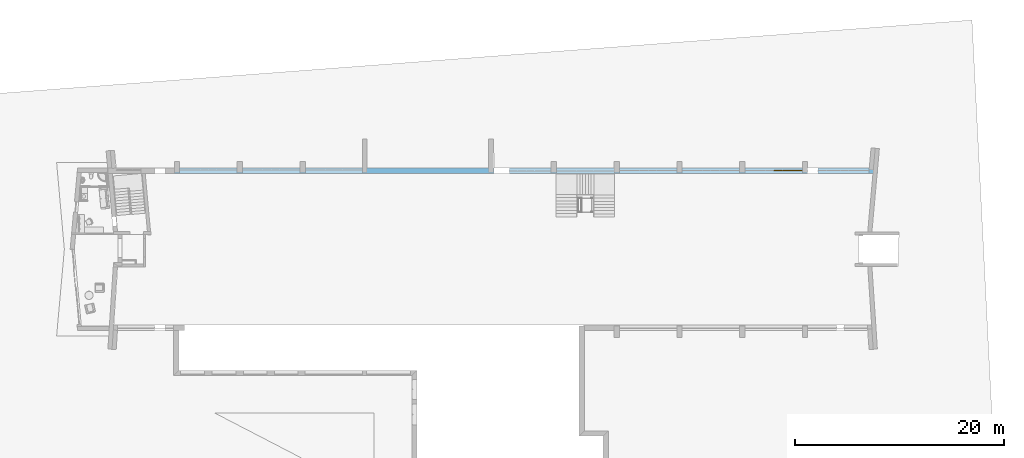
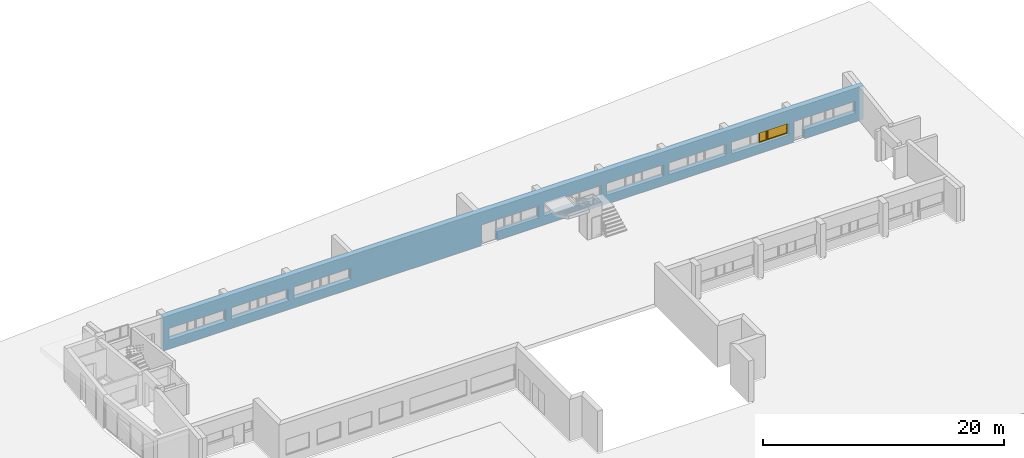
# One storey, part 23 of 36: 1 window, 20 openings, plus 1 element that does not belong to this part.
"""IFC2X3 building model written with IfcOpenShell, lengths in millimetres."""

from ifc_helpers import new_model, entity, si_unit, converted_unit, money_unit, direction, frame, origin_with_axes, place, context, subcontext, project, spatial, polyline, outline, extrude, open_shell, faceted_brep, surface_model, material, material_list, layer, layer_set, layer_usage, type_object, element, fill, save


model = new_model("IFC2X3")

# Units and contexts
model_context = context("Model", 3, precision=1e-05, world=origin_with_axes(), true_north=direction((0.0, 1.0)))
body_context = subcontext(model_context, "Body", "Model", "MODEL_VIEW")
ifc_project = project(units=[si_unit("LENGTHUNIT", "METRE", prefix="MILLI"), si_unit("AREAUNIT", "SQUARE_METRE"), si_unit("VOLUMEUNIT", "CUBIC_METRE"), converted_unit("PLANEANGLEUNIT", "DEGREE", entity("IfcPlaneAngleMeasure", 0.0174532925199), si_unit("PLANEANGLEUNIT", "RADIAN"), dimensions=[0, 0, 0, 0, 0, 0, 0]), si_unit("SOLIDANGLEUNIT", "STERADIAN"), money_unit("USD"), converted_unit("TIMEUNIT", "Year", entity("IfcTimeMeasure", 31556926.0), si_unit("TIMEUNIT", "SECOND"), dimensions=[0, 0, 0, 0, 0, 0, 0]), si_unit("MASSUNIT", "GRAM"), si_unit("THERMODYNAMICTEMPERATUREUNIT", "DEGREE_CELSIUS"), si_unit("LUMINOUSINTENSITYUNIT", "LUMEN")], contexts=[model_context])

# Site, building, storey
site_placement = place(None, origin_with_axes())
site = spatial("IfcSite", under=ifc_project, at=site_placement, Name="Site", CompositionType="ELEMENT")
building_placement = place(site_placement, origin_with_axes())
building = spatial("IfcBuilding", under=site, at=building_placement, Name="Building", CompositionType="ELEMENT")
storey_placement = place(building_placement, frame((0.0, 0.0, -3400.0), z_axis=(0.0, 0.0, 1.0), x_axis=(1.0, 0.0, 0.0)))
storey = spatial("IfcBuildingStorey", under=building, at=storey_placement, Name="1KORRUS", CompositionType="ELEMENT", Elevation=-3400.0)

# Wall, openings, window
ifc_material_1 = material(Name="Olemasolevad seinad tellis, uus viimistlus")
ifc_layer = layer(ifc_material_1, 500.0, ventilated="UNKNOWN")
ifc_layer_set = layer_set([ifc_layer], Name="Olemasolevad seinad tellis, uus viimistlus 500")
ifc_layer_usage = layer_usage(ifc_layer_set, "AXIS2", "POSITIVE", -100.0)
wall_type = type_object("IfcWallType", Name="Olemasolevad seinad tellis, uus viimistlus 500", PredefinedType="NOTDEFINED")
wall_placement = place(storey_placement, frame((-48393.8274049, -5039.6041088, 0.0), z_axis=(0.0, 0.0, 1.0), x_axis=(1.0, 0.0, 0.0)))
wall = element("IfcWallStandardCase", 1, at=wall_placement, inside=storey, type_object=wall_type, material=ifc_layer_usage, Name="VS1", ObjectType="VS1", context=body_context, shape_type="SweptSolid", body=[
    extrude(outline(polyline([(0.0, -100.0), (67149.8194303, -100.0), (67149.8194303, 400.0), (0.0, 400.0), (0.0, -100.0)])), origin_with_axes(), (0.0, 0.0, 1.0), 3400.0),
])
opening_1_placement = place(wall_placement, frame((1878.53070154, 0.0, 900.0), z_axis=(0.0, 0.0, 1.0), x_axis=(1.0, 0.0, 0.0)))
element("IfcOpeningElement", 2, at=opening_1_placement, cuts=wall, Name="Olemasolevad aknad jäävad", context=body_context, shape_type="SweptSolid", body=[
    extrude(outline(polyline([(-1375.0, 1200.0), (-1375.0, 0.0), (1375.0, 0.0), (1375.0, 1200.0), (-1375.0, 1200.0)])), frame((0.0, 250.0, 0.0), z_axis=(0.0, -1.0, 0.0), x_axis=(1.0, 0.0, 0.0)), (0.0, 0.0, 1.0), 850.0),
    extrude(outline(polyline([(-1375.0, 0.0), (-1375.0, -1200.0), (1375.0, -1200.0), (1375.0, 0.0), (-1375.0, 0.0)])), frame((0.0, 250.0, 0.0), z_axis=(0.0, 1.0, 0.0), x_axis=(1.0, 0.0, 0.0)), (0.0, 0.0, 1.0), 650.0),
])
opening_2_placement = place(wall_placement, frame((7878.53070154, 0.0, 900.0), z_axis=(0.0, 0.0, 1.0), x_axis=(1.0, 0.0, 0.0)))
element("IfcOpeningElement", 3, at=opening_2_placement, cuts=wall, Name="Olemasolevad aknad jäävad", context=body_context, shape_type="SweptSolid", body=[
    extrude(outline(polyline([(-1375.0, 1200.0), (-1375.0, 0.0), (1375.0, 0.0), (1375.0, 1200.0), (-1375.0, 1200.0)])), frame((0.0, 250.0, 0.0), z_axis=(0.0, -1.0, 0.0), x_axis=(1.0, 0.0, 0.0)), (0.0, 0.0, 1.0), 850.0),
    extrude(outline(polyline([(-1375.0, 0.0), (-1375.0, -1200.0), (1375.0, -1200.0), (1375.0, 0.0), (-1375.0, 0.0)])), frame((0.0, 250.0, 0.0), z_axis=(0.0, 1.0, 0.0), x_axis=(1.0, 0.0, 0.0)), (0.0, 0.0, 1.0), 650.0),
])
opening_3_placement = place(wall_placement, frame((13878.5307015, 0.0, 900.0), z_axis=(0.0, 0.0, 1.0), x_axis=(1.0, 0.0, 0.0)))
element("IfcOpeningElement", 4, at=opening_3_placement, cuts=wall, Name="Olemasolevad aknad jäävad", context=body_context, shape_type="SweptSolid", body=[
    extrude(outline(polyline([(-1375.0, 1200.0), (-1375.0, 0.0), (1375.0, 0.0), (1375.0, 1200.0), (-1375.0, 1200.0)])), frame((0.0, 250.0, 0.0), z_axis=(0.0, -1.0, 0.0), x_axis=(1.0, 0.0, 0.0)), (0.0, 0.0, 1.0), 850.0),
    extrude(outline(polyline([(-1375.0, 0.0), (-1375.0, -1200.0), (1375.0, -1200.0), (1375.0, 0.0), (-1375.0, 0.0)])), frame((0.0, 250.0, 0.0), z_axis=(0.0, 1.0, 0.0), x_axis=(1.0, 0.0, 0.0)), (0.0, 0.0, 1.0), 650.0),
])
opening_4_placement = place(wall_placement, frame((4628.53070154, 0.0, 900.0), z_axis=(0.0, 0.0, 1.0), x_axis=(1.0, 0.0, 0.0)))
element("IfcOpeningElement", 5, at=opening_4_placement, cuts=wall, Name="Olemasolevad aknad jäävad", context=body_context, shape_type="SweptSolid", body=[
    extrude(outline(polyline([(1375.0, 1200.0), (-1375.0, 1200.0), (-1375.0, 0.0), (1375.0, 0.0), (1375.0, 1200.0)])), frame((0.0, 250.0, 0.0), z_axis=(0.0, -1.0, 0.0), x_axis=(1.0, 0.0, 0.0)), (0.0, 0.0, 1.0), 850.0),
    extrude(outline(polyline([(1375.0, 0.0), (-1375.0, 0.0), (-1375.0, -1200.0), (1375.0, -1200.0), (1375.0, 0.0)])), frame((0.0, 250.0, 0.0), z_axis=(0.0, 1.0, 0.0), x_axis=(1.0, 0.0, 0.0)), (0.0, 0.0, 1.0), 650.0),
])
opening_5_placement = place(wall_placement, frame((10628.5307015, 0.0, 900.0), z_axis=(0.0, 0.0, 1.0), x_axis=(1.0, 0.0, 0.0)))
element("IfcOpeningElement", 6, at=opening_5_placement, cuts=wall, Name="Olemasolevad aknad jäävad", context=body_context, shape_type="SweptSolid", body=[
    extrude(outline(polyline([(1375.0, 1200.0), (-1375.0, 1200.0), (-1375.0, 0.0), (1375.0, 0.0), (1375.0, 1200.0)])), frame((0.0, 250.0, 0.0), z_axis=(0.0, -1.0, 0.0), x_axis=(1.0, 0.0, 0.0)), (0.0, 0.0, 1.0), 850.0),
    extrude(outline(polyline([(1375.0, 0.0), (-1375.0, 0.0), (-1375.0, -1200.0), (1375.0, -1200.0), (1375.0, 0.0)])), frame((0.0, 250.0, 0.0), z_axis=(0.0, 1.0, 0.0), x_axis=(1.0, 0.0, 0.0)), (0.0, 0.0, 1.0), 650.0),
])
opening_6_placement = place(wall_placement, frame((16616.9651775, 0.0, 900.0), z_axis=(0.0, 0.0, 1.0), x_axis=(1.0, 0.0, 0.0)))
element("IfcOpeningElement", 7, at=opening_6_placement, cuts=wall, Name="Olemasolevad aknad jäävad", context=body_context, shape_type="SweptSolid", body=[
    extrude(outline(polyline([(1375.0, 1200.0), (-1375.0, 1200.0), (-1375.0, 0.0), (1375.0, 0.0), (1375.0, 1200.0)])), frame((0.0, 250.0, 0.0), z_axis=(0.0, -1.0, 0.0), x_axis=(1.0, 0.0, 0.0)), (0.0, 0.0, 1.0), 850.0),
    extrude(outline(polyline([(1375.0, 0.0), (-1375.0, 0.0), (-1375.0, -1200.0), (1375.0, -1200.0), (1375.0, 0.0)])), frame((0.0, 250.0, 0.0), z_axis=(0.0, 1.0, 0.0), x_axis=(1.0, 0.0, 0.0)), (0.0, 0.0, 1.0), 650.0),
])
opening_7_placement = place(wall_placement, frame((34803.5307015, 0.0, 900.0), z_axis=(0.0, 0.0, 1.0), x_axis=(1.0, 0.0, 0.0)))
element("IfcOpeningElement", 8, at=opening_7_placement, cuts=wall, Name="Olemasolevad aknad jäävad", context=body_context, shape_type="SweptSolid", body=[
    extrude(outline(polyline([(1200.0, 0.0), (-1200.0, 0.0), (-1200.0, -1200.0), (1200.0, -1200.0), (1200.0, 0.0)])), frame((0.0, 100.0, 0.0), z_axis=(0.0, 1.0, 0.0), x_axis=(1.0, 0.0, 0.0)), (0.0, 0.0, 1.0), 800.0),
    extrude(outline(polyline([(1200.0, 1200.0), (-1200.0, 1200.0), (-1200.0, 0.0), (1200.0, 0.0), (1200.0, 1200.0)])), frame((0.0, 100.0, 0.0), z_axis=(0.0, -1.0, 0.0), x_axis=(1.0, 0.0, 0.0)), (0.0, 0.0, 1.0), 700.0),
])
opening_8_placement = place(wall_placement, frame((40625.1633636, 0.0, 900.0), z_axis=(0.0, 0.0, 1.0), x_axis=(1.0, 0.0, 0.0)))
element("IfcOpeningElement", 9, at=opening_8_placement, cuts=wall, Name="Olemasolevad aknad jäävad", context=body_context, shape_type="SweptSolid", body=[
    extrude(outline(polyline([(1400.0, 0.0), (-1400.0, 0.0), (-1400.0, -1200.0), (1400.0, -1200.0), (1400.0, 0.0)])), frame((0.0, 100.0, 0.0), z_axis=(0.0, 1.0, 0.0), x_axis=(1.0, 0.0, 0.0)), (0.0, 0.0, 1.0), 800.0),
    extrude(outline(polyline([(1400.0, 1200.0), (-1400.0, 1200.0), (-1400.0, 0.0), (1400.0, 0.0), (1400.0, 1200.0)])), frame((0.0, 100.0, 0.0), z_axis=(0.0, -1.0, 0.0), x_axis=(1.0, 0.0, 0.0)), (0.0, 0.0, 1.0), 700.0),
])
opening_9_placement = place(wall_placement, frame((37871.3218818, 0.0, 900.0), z_axis=(0.0, 0.0, 1.0), x_axis=(1.0, 0.0, 0.0)))
element("IfcOpeningElement", 10, at=opening_9_placement, cuts=wall, Name="Olemasolevad aknad jäävad", context=body_context, shape_type="SweptSolid", body=[
    extrude(outline(polyline([(-1367.791, 0.0), (-1367.791, -1200.0), (1367.791, -1200.0), (1367.791, 0.0), (-1367.791, 0.0)])), frame((0.0, 150.0, 0.0), z_axis=(0.0, 1.0, 0.0), x_axis=(1.0, 0.0, 0.0)), (0.0, 0.0, 1.0), 750.0),
    extrude(outline(polyline([(-1367.791, 1200.0), (-1367.791, 0.0), (1367.791, 0.0), (1367.791, 1200.0), (-1367.791, 1200.0)])), frame((0.0, 150.0, 0.0), z_axis=(0.0, -1.0, 0.0), x_axis=(1.0, 0.0, 0.0)), (0.0, 0.0, 1.0), 750.0),
])
opening_10_placement = place(wall_placement, frame((46628.5307015, 0.0, 900.0), z_axis=(0.0, 0.0, 1.0), x_axis=(1.0, 0.0, 0.0)))
element("IfcOpeningElement", 11, at=opening_10_placement, cuts=wall, Name="Olemasolevad aknad jäävad", context=body_context, shape_type="SweptSolid", body=[
    extrude(outline(polyline([(1375.0, 1200.0), (-1375.0, 1200.0), (-1375.0, 0.0), (1375.0, 0.0), (1375.0, 1200.0)])), frame((0.0, 150.0, 0.0), z_axis=(0.0, -1.0, 0.0), x_axis=(1.0, 0.0, 0.0)), (0.0, 0.0, 1.0), 750.0),
    extrude(outline(polyline([(1375.0, 0.0), (-1375.0, 0.0), (-1375.0, -1200.0), (1375.0, -1200.0), (1375.0, 0.0)])), frame((0.0, 150.0, 0.0), z_axis=(0.0, 1.0, 0.0), x_axis=(1.0, 0.0, 0.0)), (0.0, 0.0, 1.0), 750.0),
])
opening_11_placement = place(wall_placement, frame((43878.5307015, 0.0, 900.0), z_axis=(0.0, 0.0, 1.0), x_axis=(1.0, 0.0, 0.0)))
element("IfcOpeningElement", 12, at=opening_11_placement, cuts=wall, Name="Olemasolevad aknad jäävad", context=body_context, shape_type="SweptSolid", body=[
    extrude(outline(polyline([(-1375.0, 1200.0), (-1375.0, 0.0), (1375.0, 0.0), (1375.0, 1200.0), (-1375.0, 1200.0)])), frame((0.0, 200.0, 0.0), z_axis=(0.0, -1.0, 0.0), x_axis=(1.0, 0.0, 0.0)), (0.0, 0.0, 1.0), 800.0),
    extrude(outline(polyline([(-1375.0, 0.0), (-1375.0, -1200.0), (1375.0, -1200.0), (1375.0, 0.0), (-1375.0, 0.0)])), frame((0.0, 200.0, 0.0), z_axis=(0.0, 1.0, 0.0), x_axis=(1.0, 0.0, 0.0)), (0.0, 0.0, 1.0), 700.0),
])
opening_12_placement = place(wall_placement, frame((52635.3834465, 0.0, 900.0), z_axis=(0.0, 0.0, 1.0), x_axis=(1.0, 0.0, 0.0)))
element("IfcOpeningElement", 13, at=opening_12_placement, cuts=wall, Name="Olemasolevad aknad jäävad", context=body_context, shape_type="SweptSolid", body=[
    extrude(outline(polyline([(1376.809, 1200.0), (-1376.809, 1200.0), (-1376.809, 0.0), (1376.809, 0.0), (1376.809, 1200.0)])), frame((0.0, 150.0, 0.0), z_axis=(0.0, -1.0, 0.0), x_axis=(1.0, 0.0, 0.0)), (0.0, 0.0, 1.0), 750.0),
    extrude(outline(polyline([(1376.809, 0.0), (-1376.809, 0.0), (-1376.809, -1200.0), (1376.809, -1200.0), (1376.809, 0.0)])), frame((0.0, 150.0, 0.0), z_axis=(0.0, 1.0, 0.0), x_axis=(1.0, 0.0, 0.0)), (0.0, 0.0, 1.0), 750.0),
])
opening_13_placement = place(wall_placement, frame((49883.9987013, 0.0, 900.0), z_axis=(0.0, 0.0, 1.0), x_axis=(1.0, 0.0, 0.0)))
element("IfcOpeningElement", 14, at=opening_13_placement, cuts=wall, Name="Olemasolevad aknad jäävad", context=body_context, shape_type="SweptSolid", body=[
    extrude(outline(polyline([(-1375.0, 1200.0), (-1375.0, 0.0), (1375.0, 0.0), (1375.0, 1200.0), (-1375.0, 1200.0)])), frame((0.0, 200.0, 0.0), z_axis=(0.0, -1.0, 0.0), x_axis=(1.0, 0.0, 0.0)), (0.0, 0.0, 1.0), 800.0),
    extrude(outline(polyline([(-1375.0, 0.0), (-1375.0, -1200.0), (1375.0, -1200.0), (1375.0, 0.0), (-1375.0, 0.0)])), frame((0.0, 200.0, 0.0), z_axis=(0.0, 1.0, 0.0), x_axis=(1.0, 0.0, 0.0)), (0.0, 0.0, 1.0), 700.0),
])
opening_14_placement = place(wall_placement, frame((58631.8843372, 0.0, 900.0), z_axis=(0.0, 0.0, 1.0), x_axis=(1.0, 0.0, 0.0)))
opening_14 = element("IfcOpeningElement", 15, at=opening_14_placement, cuts=wall, Name="Olemasolevad aknad jäävad", context=body_context, shape_type="SweptSolid", body=[
    extrude(outline(polyline([(1371.646, 1200.0), (-1371.646, 1200.0), (-1371.646, 0.0), (1371.646, 0.0), (1371.646, 1200.0)])), frame((0.0, 150.0, 0.0), z_axis=(0.0, -1.0, 0.0), x_axis=(1.0, 0.0, 0.0)), (0.0, 0.0, 1.0), 750.0),
    extrude(outline(polyline([(1371.646, 0.0), (-1371.646, 0.0), (-1371.646, -1200.0), (1371.646, -1200.0), (1371.646, 0.0)])), frame((0.0, 150.0, 0.0), z_axis=(0.0, 1.0, 0.0), x_axis=(1.0, 0.0, 0.0)), (0.0, 0.0, 1.0), 750.0),
])
opening_15_placement = place(wall_placement, frame((55886.6217615, 0.0, 900.0), z_axis=(0.0, 0.0, 1.0), x_axis=(1.0, 0.0, 0.0)))
element("IfcOpeningElement", 16, at=opening_15_placement, cuts=wall, Name="Olemasolevad aknad jäävad", context=body_context, shape_type="SweptSolid", body=[
    extrude(outline(polyline([(-1375.0, 1200.0), (-1375.0, 0.0), (1375.0, 0.0), (1375.0, 1200.0), (-1375.0, 1200.0)])), frame((0.0, 200.0, 0.0), z_axis=(0.0, -1.0, 0.0), x_axis=(1.0, 0.0, 0.0)), (0.0, 0.0, 1.0), 800.0),
    extrude(outline(polyline([(-1375.0, 0.0), (-1375.0, -1200.0), (1375.0, -1200.0), (1375.0, 0.0), (-1375.0, 0.0)])), frame((0.0, 200.0, 0.0), z_axis=(0.0, 1.0, 0.0), x_axis=(1.0, 0.0, 0.0)), (0.0, 0.0, 1.0), 700.0),
])
opening_16_placement = place(wall_placement, frame((64995.2517085, 0.0, 900.0), z_axis=(0.0, 0.0, 1.0), x_axis=(1.0, 0.0, 0.0)))
element("IfcOpeningElement", 17, at=opening_16_placement, cuts=wall, Name="Olemasolevad aknad jäävad", context=body_context, shape_type="SweptSolid", body=[
    extrude(outline(polyline([(1375.0, 1200.0), (-1375.0, 1200.0), (-1375.0, 0.0), (1375.0, 0.0), (1375.0, 1200.0)])), frame((0.0, 150.0, 0.0), z_axis=(0.0, -1.0, 0.0), x_axis=(1.0, 0.0, 0.0)), (0.0, 0.0, 1.0), 750.0),
    extrude(outline(polyline([(1375.0, 0.0), (-1375.0, 0.0), (-1375.0, -1200.0), (1375.0, -1200.0), (1375.0, 0.0)])), frame((0.0, 150.0, 0.0), z_axis=(0.0, 1.0, 0.0), x_axis=(1.0, 0.0, 0.0)), (0.0, 0.0, 1.0), 750.0),
])
opening_17_placement = place(wall_placement, frame((32810.8244307, 0.0, 900.0), z_axis=(0.0, 0.0, 1.0), x_axis=(1.0, 0.0, 0.0)))
element("IfcOpeningElement", 18, at=opening_17_placement, cuts=wall, Name="Olemasolevad aknad jäävad", context=body_context, shape_type="SweptSolid", body=[
    extrude(outline(polyline([(792.706, 0.0), (-792.706, 0.0), (-792.706, -1200.0), (792.706, -1200.0), (792.706, 0.0)])), frame((0.0, 100.0, 0.0), z_axis=(0.0, 1.0, 0.0), x_axis=(1.0, 0.0, 0.0)), (0.0, 0.0, 1.0), 800.0),
    extrude(outline(polyline([(792.706, 1200.0), (-792.706, 1200.0), (-792.706, 0.0), (792.706, 0.0), (792.706, 1200.0)])), frame((0.0, 100.0, 0.0), z_axis=(0.0, -1.0, 0.0), x_axis=(1.0, 0.0, 0.0)), (0.0, 0.0, 1.0), 700.0),
])
opening_18_placement = place(wall_placement, frame((62561.891205, 0.0, 900.0), z_axis=(0.0, 0.0, 1.0), x_axis=(1.0, 0.0, 0.0)))
element("IfcOpeningElement", 19, at=opening_18_placement, cuts=wall, Name="Olemasolevad aknad jäävad", context=body_context, shape_type="SweptSolid", body=[
    extrude(outline(polyline([(1058.361, 1200.0), (-1058.361, 1200.0), (-1058.361, 0.0), (1058.361, 0.0), (1058.361, 1200.0)])), frame((0.0, 150.0, 0.0), z_axis=(0.0, -1.0, 0.0), x_axis=(1.0, 0.0, 0.0)), (0.0, 0.0, 1.0), 750.0),
    extrude(outline(polyline([(1058.361, 0.0), (-1058.361, 0.0), (-1058.361, -1200.0), (1058.361, -1200.0), (1058.361, 0.0)])), frame((0.0, 150.0, 0.0), z_axis=(0.0, 1.0, 0.0), x_axis=(1.0, 0.0, 0.0)), (0.0, 0.0, 1.0), 750.0),
])
opening_19_placement = place(wall_placement, frame((61003.5307015, 0.0, -4.66441168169), z_axis=(0.0, 0.0, 1.0), x_axis=(1.0, 0.0, 0.0)))
element("IfcOpeningElement", 20, at=opening_19_placement, cuts=wall, Name="ava", context=body_context, shape_type="SweptSolid", body=[
    extrude(outline(polyline([(-500.0, 2100.0), (-500.0, 0.0), (500.0, 0.0), (500.0, 2100.0), (-500.0, 2100.0)])), frame((0.0, 200.0, 0.0), z_axis=(0.0, 1.0, 0.0), x_axis=(-1.0, 0.0, 0.0)), (0.0, 0.0, -1.0), 800.0),
    extrude(outline(polyline([(-500.0, 0.0), (-500.0, -2100.0), (500.0, -2100.0), (500.0, 0.0), (-500.0, 0.0)])), frame((0.0, 200.0, 0.0), z_axis=(0.0, -1.0, 0.0), x_axis=(-1.0, 0.0, 0.0)), (0.0, 0.0, -1.0), 700.0),
])
opening_20_placement = place(wall_placement, frame((31268.1181599, 0.0, 0.0), z_axis=(0.0, 0.0, 1.0), x_axis=(1.0, 0.0, 0.0)))
element("IfcOpeningElement", 21, at=opening_20_placement, cuts=wall, Name="ava", context=body_context, shape_type="SweptSolid", body=[
    extrude(outline(polyline([(-750.0, 2100.0), (-750.0, 0.0), (750.0, 0.0), (750.0, 2100.0), (-750.0, 2100.0)])), frame((0.0, 200.0, 0.0), z_axis=(0.0, -1.0, 0.0), x_axis=(1.0, 0.0, 0.0)), (0.0, 0.0, 1.0), 800.0),
    extrude(outline(polyline([(-750.0, 0.0), (-750.0, -2100.0), (750.0, -2100.0), (750.0, 0.0), (-750.0, 0.0)])), frame((0.0, 200.0, 0.0), z_axis=(0.0, 1.0, 0.0), x_axis=(1.0, 0.0, 0.0)), (0.0, 0.0, 1.0), 700.0),
])
ifc_material_2 = material(Name="Background")
ifc_material_list = material_list([ifc_material_2])
window_style = type_object("IfcWindowStyle", Name="Double Window 19", ConstructionType="NOTDEFINED", OperationType="DOUBLE_PANEL_VERTICAL", ParameterTakesPrecedence=False, Sizeable=False)
window_placement = place(opening_14_placement, frame((-1371.64636432, 0.0, 0.0), z_axis=(0.0, 0.0, 1.0), x_axis=(1.0, 0.0, 0.0)))
window = element("IfcWindow", 22, at=window_placement, inside=storey, type_object=window_style, material=ifc_material_list, Name="Olemasolevad aknad jäävad", ObjectType="Olemasolevad aknad jäävad", OverallHeight=1200.0, OverallWidth=2743.29, context=body_context, shape_type="SurfaceModel", body=[
    faceted_brep([(2718.293, 200.0, 1150.0), (2718.293, 175.0, 1150.0), (2693.293, 175.0, 1150.0), (2693.293, 150.0, 1150.0), (2743.293, 150.0, 1150.0), (2743.293, 200.0, 1150.0), (2718.293, 200.0, 50.0), (2718.293, 175.0, 50.0), (2693.293, 175.0, 50.0), (2693.293, 150.0, 50.0), (2743.293, 150.0, 50.0), (2743.293, 200.0, 50.0)], [[[0, 1, 2, 3, 4, 5]], [[1, 0, 6, 7]], [[8, 2, 1, 7]], [[2, 8, 9, 3]], [[4, 3, 9, 10]], [[5, 4, 10, 11]], [[6, 0, 5, 11]], [[7, 6, 11, 10, 9, 8]]]),
    faceted_brep([(50.0, 175.0, 1150.0), (25.0, 175.0, 1150.0), (25.0, 200.0, 1150.0), (0.0, 200.0, 1150.0), (0.0, 150.0, 1150.0), (50.0, 150.0, 1150.0), (50.0, 175.0, 50.0), (25.0, 175.0, 50.0), (25.0, 200.0, 50.0), (0.0, 200.0, 50.0), (0.0, 150.0, 50.0), (50.0, 150.0, 50.0)], [[[0, 1, 2, 3, 4, 5]], [[1, 0, 6, 7]], [[8, 2, 1, 7]], [[2, 8, 9, 3]], [[9, 10, 4, 3]], [[10, 11, 5, 4]], [[6, 0, 5, 11]], [[7, 6, 11, 10, 9, 8]]]),
    faceted_brep([(850.0, 175.0, 1150.0), (825.0, 175.0, 1150.0), (825.0, 200.0, 1150.0), (775.0, 200.0, 1150.0), (775.0, 175.0, 1150.0), (750.0, 175.0, 1150.0), (750.0, 150.0, 1150.0), (850.0, 150.0, 1150.0), (850.0, 175.0, 50.0), (825.0, 175.0, 50.0), (825.0, 200.0, 50.0), (775.0, 200.0, 50.0), (775.0, 175.0, 50.0), (750.0, 175.0, 50.0), (750.0, 150.0, 50.0), (850.0, 150.0, 50.0)], [[[0, 1, 2, 3, 4, 5, 6, 7]], [[1, 0, 8, 9]], [[10, 2, 1, 9]], [[2, 10, 11, 3]], [[4, 3, 11, 12]], [[13, 5, 4, 12]], [[5, 13, 14, 6]], [[14, 15, 7, 6]], [[8, 0, 7, 15]], [[9, 8, 15, 14, 13, 12, 11, 10]]]),
    faceted_brep([(850.0, 175.0, 50.0), (825.0, 175.0, 50.0), (825.0, 200.0, 50.0), (775.0, 200.0, 50.0), (775.0, 175.0, 50.0), (750.0, 175.0, 50.0), (750.0, 150.0, 50.0), (850.0, 150.0, 50.0), (2693.293, 175.0, 50.0), (2718.293, 175.0, 50.0), (2718.293, 175.0, 25.0), (825.0, 175.0, 25.0), (825.0, 200.0, 25.0), (2718.293, 200.0, 25.0), (2718.293, 200.0, 50.0), (2743.293, 200.0, 50.0), (2743.293, 200.0, 0.0), (0.0, 200.0, 0.0), (0.0, 200.0, 50.0), (25.0, 200.0, 50.0), (25.0, 200.0, 25.0), (775.0, 200.0, 25.0), (775.0, 175.0, 25.0), (25.0, 175.0, 50.0), (50.0, 175.0, 50.0), (25.0, 175.0, 25.0), (50.0, 150.0, 50.0), (2743.293, 150.0, 50.0), (2693.293, 150.0, 50.0), (0.0, 150.0, 50.0), (0.0, 150.0, 0.0), (2743.293, 150.0, 0.0)], [[[0, 1, 2, 3, 4, 5, 6, 7]], [[1, 0, 8, 9, 10, 11]], [[12, 2, 1, 11]], [[13, 14, 15, 16, 17, 18, 19, 20, 21, 3, 2, 12]], [[4, 3, 21, 22]], [[23, 24, 5, 4, 22, 25]], [[5, 24, 26, 6]], [[27, 28, 7, 6, 26, 29, 30, 31]], [[8, 0, 7, 28]], [[9, 8, 28, 27, 15, 14]], [[9, 14, 13, 10]], [[13, 12, 11, 10]], [[15, 27, 31, 16]], [[16, 31, 30, 17]], [[17, 30, 29, 18]], [[24, 23, 19, 18, 29, 26]], [[20, 19, 23, 25]], [[21, 20, 25, 22]]]),
    faceted_brep([(2718.293, 200.0, 1150.0), (2718.293, 200.0, 1175.0), (825.0, 200.0, 1175.0), (825.0, 200.0, 1150.0), (775.0, 200.0, 1150.0), (775.0, 200.0, 1175.0), (25.0, 200.0, 1175.0), (25.0, 200.0, 1150.0), (0.0, 200.0, 1150.0), (0.0, 200.0, 1200.0), (2743.293, 200.0, 1200.0), (2743.293, 200.0, 1150.0), (2718.293, 175.0, 1150.0), (2718.293, 175.0, 1175.0), (825.0, 175.0, 1175.0), (825.0, 175.0, 1150.0), (850.0, 175.0, 1150.0), (850.0, 150.0, 1150.0), (750.0, 150.0, 1150.0), (750.0, 175.0, 1150.0), (775.0, 175.0, 1150.0), (775.0, 175.0, 1175.0), (25.0, 175.0, 1175.0), (25.0, 175.0, 1150.0), (50.0, 175.0, 1150.0), (50.0, 150.0, 1150.0), (0.0, 150.0, 1150.0), (0.0, 150.0, 1200.0), (2743.293, 150.0, 1200.0), (2743.293, 150.0, 1150.0), (2693.293, 150.0, 1150.0), (2693.293, 175.0, 1150.0)], [[[0, 1, 2, 3, 4, 5, 6, 7, 8, 9, 10, 11]], [[1, 0, 12, 13]], [[2, 1, 13, 14]], [[3, 2, 14, 15]], [[15, 16, 17, 18, 19, 20, 4, 3]], [[5, 4, 20, 21]], [[6, 5, 21, 22]], [[7, 6, 22, 23]], [[23, 24, 25, 26, 8, 7]], [[8, 26, 27, 9]], [[9, 27, 28, 10]], [[10, 28, 29, 11]], [[12, 0, 11, 29, 30, 31]], [[16, 15, 14, 13, 12, 31]], [[16, 31, 30, 17]], [[18, 17, 30, 29, 28, 27, 26, 25]], [[24, 19, 18, 25]], [[24, 23, 22, 21, 20, 19]]]),
    faceted_brep([(2668.293, 175.0, 1125.0), (2718.293, 175.0, 1125.0), (2718.293, 225.0, 1125.0), (2668.293, 225.0, 1125.0), (2668.293, 175.0, 75.0), (2718.293, 175.0, 75.0), (2718.293, 225.0, 75.0), (2668.293, 225.0, 75.0)], [[[0, 1, 2, 3]], [[0, 4, 5, 1]], [[1, 5, 6, 2]], [[3, 2, 6, 7]], [[4, 0, 3, 7]], [[5, 4, 7, 6]]]),
    faceted_brep([(875.0, 175.0, 75.0), (825.0, 175.0, 75.0), (825.0, 225.0, 75.0), (875.0, 225.0, 75.0), (875.0, 175.0, 1125.0), (825.0, 175.0, 1125.0), (825.0, 225.0, 1125.0), (875.0, 225.0, 1125.0)], [[[0, 1, 2, 3]], [[0, 4, 5, 1]], [[1, 5, 6, 2]], [[3, 2, 6, 7]], [[4, 0, 3, 7]], [[5, 4, 7, 6]]]),
    faceted_brep([(825.0, 175.0, 25.0), (825.0, 175.0, 75.0), (825.0, 225.0, 75.0), (825.0, 225.0, 25.0), (2718.293, 175.0, 25.0), (2718.293, 175.0, 75.0), (2668.293, 175.0, 75.0), (875.0, 175.0, 75.0), (875.0, 225.0, 75.0), (2668.293, 225.0, 75.0), (2718.293, 225.0, 75.0), (2718.293, 225.0, 25.0)], [[[0, 1, 2, 3]], [[0, 4, 5, 6, 7, 1]], [[1, 7, 8, 2]], [[3, 2, 8, 9, 10, 11]], [[4, 0, 3, 11]], [[5, 4, 11, 10]], [[6, 5, 10, 9]], [[7, 6, 9, 8]]]),
    faceted_brep([(2718.293, 175.0, 1175.0), (2718.293, 175.0, 1125.0), (2718.293, 225.0, 1125.0), (2718.293, 225.0, 1175.0), (825.0, 175.0, 1175.0), (825.0, 175.0, 1125.0), (875.0, 175.0, 1125.0), (2668.293, 175.0, 1125.0), (2668.293, 225.0, 1125.0), (875.0, 225.0, 1125.0), (825.0, 225.0, 1125.0), (825.0, 225.0, 1175.0)], [[[0, 1, 2, 3]], [[0, 4, 5, 6, 7, 1]], [[1, 7, 8, 2]], [[3, 2, 8, 9, 10, 11]], [[4, 0, 3, 11]], [[5, 4, 11, 10]], [[6, 5, 10, 9]], [[7, 6, 9, 8]]]),
    surface_model("IfcShellBasedSurfaceModel", [(2668.293, 190.0, 75.0), (2668.293, 190.0, 1125.0), (875.0, 190.0, 1125.0), (875.0, 190.0, 75.0)], [open_shell([[[0, 1, 2, 3]]])]),
    surface_model("IfcShellBasedSurfaceModel", [(2668.293, 210.0, 75.0), (875.0, 210.0, 75.0), (875.0, 210.0, 1125.0), (2668.293, 210.0, 1125.0)], [open_shell([[[0, 1, 2, 3]]])]),
    faceted_brep([(725.0, 175.0, 1125.0), (775.0, 175.0, 1125.0), (775.0, 225.0, 1125.0), (725.0, 225.0, 1125.0), (725.0, 175.0, 75.0), (775.0, 175.0, 75.0), (775.0, 225.0, 75.0), (725.0, 225.0, 75.0)], [[[0, 1, 2, 3]], [[0, 4, 5, 1]], [[1, 5, 6, 2]], [[3, 2, 6, 7]], [[4, 0, 3, 7]], [[5, 4, 7, 6]]]),
    faceted_brep([(75.0, 175.0, 75.0), (25.0, 175.0, 75.0), (25.0, 225.0, 75.0), (75.0, 225.0, 75.0), (75.0, 175.0, 1125.0), (25.0, 175.0, 1125.0), (25.0, 225.0, 1125.0), (75.0, 225.0, 1125.0)], [[[0, 1, 2, 3]], [[0, 4, 5, 1]], [[1, 5, 6, 2]], [[3, 2, 6, 7]], [[4, 0, 3, 7]], [[5, 4, 7, 6]]]),
    faceted_brep([(25.0, 175.0, 25.0), (25.0, 175.0, 75.0), (25.0, 225.0, 75.0), (25.0, 225.0, 25.0), (775.0, 175.0, 25.0), (775.0, 175.0, 75.0), (725.0, 175.0, 75.0), (75.0, 175.0, 75.0), (75.0, 225.0, 75.0), (725.0, 225.0, 75.0), (775.0, 225.0, 75.0), (775.0, 225.0, 25.0)], [[[0, 1, 2, 3]], [[0, 4, 5, 6, 7, 1]], [[1, 7, 8, 2]], [[3, 2, 8, 9, 10, 11]], [[4, 0, 3, 11]], [[5, 4, 11, 10]], [[6, 5, 10, 9]], [[7, 6, 9, 8]]]),
    faceted_brep([(775.0, 175.0, 1175.0), (775.0, 175.0, 1125.0), (775.0, 225.0, 1125.0), (775.0, 225.0, 1175.0), (25.0, 175.0, 1175.0), (25.0, 175.0, 1125.0), (75.0, 175.0, 1125.0), (725.0, 175.0, 1125.0), (725.0, 225.0, 1125.0), (75.0, 225.0, 1125.0), (25.0, 225.0, 1125.0), (25.0, 225.0, 1175.0)], [[[0, 1, 2, 3]], [[0, 4, 5, 6, 7, 1]], [[1, 7, 8, 2]], [[3, 2, 8, 9, 10, 11]], [[4, 0, 3, 11]], [[5, 4, 11, 10]], [[6, 5, 10, 9]], [[7, 6, 9, 8]]]),
    surface_model("IfcShellBasedSurfaceModel", [(725.0, 190.0, 75.0), (725.0, 190.0, 1125.0), (75.0, 190.0, 1125.0), (75.0, 190.0, 75.0)], [open_shell([[[0, 1, 2, 3]]])]),
    surface_model("IfcShellBasedSurfaceModel", [(725.0, 210.0, 75.0), (75.0, 210.0, 75.0), (75.0, 210.0, 1125.0), (725.0, 210.0, 1125.0)], [open_shell([[[0, 1, 2, 3]]])]),
])
fill(opening_14, window)

save(model, "model.ifc")
